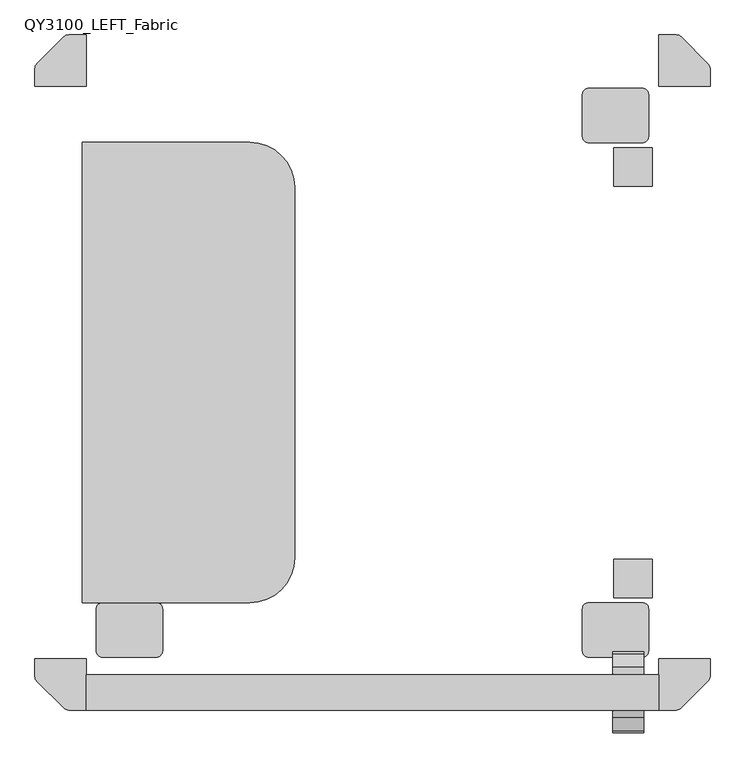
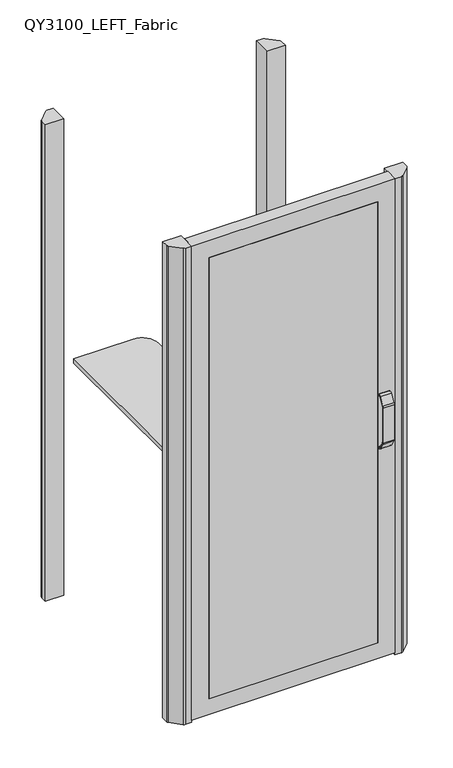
"""IFC4 building model written with IfcOpenShell, lengths in millimetres: furniture geometry, Qyos_100 : QY3100_LEFT_Fabric."""

from ifc_helpers import new_model, si_unit, point, frame, frame_2d, origin, origin_with_axes, place, context, project, spatial, polyline, circle_curve, ellipse_curve, trimmed, segment, composite_curve, outline, extrude, source, transform, mapped, element, save
from ifc_brep_helpers import plane_surface, cylinder_surface, revolved_surface, advanced_brep


def qy3100_left_fabric_19f7d84a(model_context):
    return source(origin(), model_context, "Body", "SolidModel", [
        extrude(outline(composite_curve([segment(polyline([(-451.0, 358.0), (-191.0, 358.0)]), True, "CONTINUOUS"), segment(trimmed(circle_curve(frame_2d((-191.0, 288.0)), 70.0), [point((-191.0, 358.0))], [point((-121.0, 288.0))], False, "CARTESIAN"), True, "CONTINUOUS"), segment(polyline([(-121.0, 288.0), (-121.0, -288.0)]), True, "CONTINUOUS"), segment(trimmed(circle_curve(frame_2d((-191.0, -288.0)), 70.0), [point((-121.0, -288.0))], [point((-191.0, -358.0))], False, "CARTESIAN"), True, "CONTINUOUS"), segment(polyline([(-191.0, -358.0), (-451.0, -358.0), (-451.0, 358.0)]), True, "CONTINUOUS")], self_intersect=False)), frame((0.0, 0.0, 1128.0), z_axis=(0.0, 0.0, 1.0), x_axis=(1.0, 0.0, 0.0)), (0.0, 0.0, 1.0), 19.0),
        advanced_brep(
        [(374.085107, -525.6314016, 980.9779398), (374.085107, -537.1968679, 985.7672556), (374.085107, -557.5610872, 1017.1254034), (374.085107, -560.5, 1025.2), (374.085107, -560.5, 1186.1919919), (374.085107, -557.7819627, 1194.5572505), (374.085107, -537.162848, 1226.3079029), (374.085107, -525.6314016, 1230.9669096), (374.085107, -525.6314016, 1224.0702851), (374.085107, -536.4262787, 1221.4167571), (374.085107, -553.2020658, 1196.5456299), (374.085107, -557.6320377, 1173.7554001), (374.085107, -557.6320377, 1028.7554001), (374.085107, -555.0438473, 1019.0961419), (374.085107, -537.9469969, 991.7354618), (374.085107, -525.6314016, 985.9647191), (422.0329647, -525.6314016, 1230.9669096), (422.0329647, -537.162848, 1226.3079029), (422.0329647, -557.7819627, 1194.5572505), (422.0329647, -560.5, 1186.1919919), (422.0329647, -560.5, 1025.2), (422.0329647, -557.5610872, 1017.1254034), (422.0329647, -537.1968679, 985.7672556), (422.0329647, -525.6314016, 980.9779398), (419.3636893, -525.6314016, 985.9647191), (419.3636893, -525.6314016, 1224.0702851), (419.3636893, -537.9469969, 991.7354618), (419.3636893, -555.0438473, 1019.0961419), (419.3636893, -557.6320377, 1028.7554001), (419.3636893, -557.6320377, 1173.7554001), (419.3636893, -553.2020658, 1196.5456299), (419.3636893, -536.4262787, 1221.4167571)],
        [
            (0, 1, circle_curve(frame((374.085107, -527.6091735, 992.560998), z_axis=(-1.0, 0.0, 0.0), x_axis=(0.0, -1.0, 0.0)), 11.7506945)),
            (1, 2, circle_curve(frame((374.085107, -160.5394908, 1252.6628295), z_axis=(-1.0, 0.0, 0.0), x_axis=(0.0, -1.0, 0.0)), 461.6319174)),
            (2, 3, circle_curve(frame((374.085107, -513.525418, 1037.7252129), z_axis=(-1.0, 0.0, 0.0), x_axis=(0.0, -1.0, 0.0)), 48.615762)),
            (3, 4),
            (4, 5, circle_curve(frame((374.085107, -541.7589098, 1184.7268438), z_axis=(-1.0, 0.0, 0.0), x_axis=(0.0, -1.0, 0.0)), 18.7982744)),
            (5, 6, circle_curve(frame((374.085107, 71.0762231, 808.7424006), z_axis=(-1.0, 0.0, 0.0), x_axis=(0.0, -1.0, 0.0)), 737.777552)),
            (6, 7, circle_curve(frame((374.085107, -527.4087289, 1218.7657801), z_axis=(-1.0, 0.0, 0.0), x_axis=(0.0, -1.0, 0.0)), 12.3299009)),
            (7, 8),
            (8, 9, circle_curve(frame((374.085107, -525.6314016, 1200.7860796), z_axis=(1.0, 0.0, 0.0), x_axis=(0.0, -1.0, 0.0)), 23.2842055)),
            (9, 10, circle_curve(frame((374.085107, -812.3576761, 1389.4415655), z_axis=(-1.0, 0.0, 0.0), x_axis=(0.0, -1.0, 0.0)), 323.0641922)),
            (10, 11, circle_curve(frame((374.085107, -496.7942676, 1173.7554001), z_axis=(1.0, 0.0, 0.0), x_axis=(0.0, -1.0, 0.0)), 60.8377701)),
            (11, 12),
            (12, 13, circle_curve(frame((374.085107, -540.0644692, 1028.286235), z_axis=(1.0, 0.0, 0.0), x_axis=(0.0, -1.0, 0.0)), 17.5738323)),
            (13, 14, circle_curve(frame((374.085107, 1120.4570487, 2047.0433119), z_axis=(1.0, 0.0, 0.0), x_axis=(0.0, -1.0, 0.0)), 1965.7005461)),
            (14, 15, circle_curve(frame((374.085107, -525.4805644, 1002.3136249), z_axis=(1.0, 0.0, 0.0), x_axis=(0.0, -1.0, 0.0)), 16.3496016)),
            (15, 0),
            (16, 17, circle_curve(frame((422.0329647, -527.4087289, 1218.7657801), z_axis=(1.0, 0.0, 0.0), x_axis=(0.0, -1.0, 0.0)), 12.3299009)),
            (17, 18, circle_curve(frame((422.0329647, 71.0762231, 808.7424006), z_axis=(1.0, 0.0, 0.0), x_axis=(0.0, -1.0, 0.0)), 737.777552)),
            (18, 19, circle_curve(frame((422.0329647, -541.7589098, 1184.7268438), z_axis=(1.0, 0.0, 0.0), x_axis=(0.0, -1.0, 0.0)), 18.7982744)),
            (19, 20),
            (20, 21, circle_curve(frame((422.0329647, -513.525418, 1037.7252129), z_axis=(1.0, 0.0, 0.0), x_axis=(0.0, -1.0, 0.0)), 48.615762)),
            (21, 22, circle_curve(frame((422.0329647, -160.5394908, 1252.6628295), z_axis=(1.0, 0.0, 0.0), x_axis=(0.0, -1.0, 0.0)), 461.6319174)),
            (22, 23, circle_curve(frame((422.0329647, -527.6091735, 992.560998), z_axis=(1.0, 0.0, 0.0), x_axis=(0.0, -1.0, 0.0)), 11.7506945)),
            (23, 16),
            (23, 0),
            (15, 24),
            (24, 25),
            (25, 8),
            (7, 16),
            (22, 1),
            (21, 2),
            (20, 3),
            (19, 4),
            (18, 5),
            (17, 6),
            (26, 27, circle_curve(frame((419.3636893, 1120.4570487, 2047.0433119), z_axis=(-1.0, 0.0, 0.0), x_axis=(0.0, -1.0, 0.0)), 1965.7005461)),
            (27, 28, circle_curve(frame((419.3636893, -540.0644692, 1028.286235), z_axis=(-1.0, 0.0, 0.0), x_axis=(0.0, -1.0, 0.0)), 17.5738323)),
            (28, 29),
            (29, 30, circle_curve(frame((419.3636893, -496.7942676, 1173.7554001), z_axis=(-1.0, 0.0, 0.0), x_axis=(0.0, -1.0, 0.0)), 60.8377701)),
            (30, 31, circle_curve(frame((419.3636893, -812.3576761, 1389.4415655), z_axis=(1.0, 0.0, 0.0), x_axis=(0.0, -1.0, 0.0)), 323.0641922)),
            (31, 25, circle_curve(frame((419.3636893, -525.6314016, 1200.7860796), z_axis=(-1.0, 0.0, 0.0), x_axis=(0.0, -1.0, 0.0)), 23.2842055)),
            (24, 26, circle_curve(frame((419.3636893, -525.4805644, 1002.3136249), z_axis=(-1.0, 0.0, 0.0), x_axis=(0.0, -1.0, 0.0)), 16.3496016)),
            (14, 26),
            (13, 27),
            (12, 28),
            (11, 29),
            (10, 30),
            (9, 31),
        ],
        [
            plane_surface(frame((374.085107, -525.6314016, 980.9779398), z_axis=(-1.0, 0.0, 0.0), x_axis=(0.0, 0.0, -1.0))),
            plane_surface(frame((422.0329647, -525.6314016, 980.9779398), z_axis=(1.0, 0.0, 0.0), x_axis=(0.0, 0.0, 1.0))),
            plane_surface(frame((374.085107, -525.6314016, 1230.9669096), z_axis=(0.0, 1.0, 0.0), x_axis=(1.0, 0.0, 0.0))),
            cylinder_surface(frame((422.0329647, -527.6091735, 992.560998), z_axis=(-1.0, 0.0, 0.0), x_axis=(0.0, -1.0, 0.0)), 11.7506945),
            cylinder_surface(frame((422.0329647, -160.5394908, 1252.6628295), z_axis=(-1.0, 0.0, 0.0), x_axis=(0.0, -1.0, 0.0)), 461.6319174),
            cylinder_surface(frame((422.0329647, -513.525418, 1037.7252129), z_axis=(-1.0, 0.0, 0.0), x_axis=(0.0, -1.0, 0.0)), 48.615762),
            plane_surface(frame((374.085107, -560.5, 1025.2), z_axis=(0.0, -1.0, 0.0), x_axis=(1.0, 0.0, 0.0))),
            cylinder_surface(frame((422.0329647, -541.7589098, 1184.7268438), z_axis=(-1.0, 0.0, 0.0), x_axis=(0.0, -1.0, 0.0)), 18.7982744),
            cylinder_surface(frame((422.0329647, 71.0762231, 808.7424006), z_axis=(-1.0, 0.0, 0.0), x_axis=(0.0, -1.0, 0.0)), 737.777552),
            cylinder_surface(frame((422.0329647, -527.4087289, 1218.7657801), z_axis=(-1.0, 0.0, 0.0), x_axis=(0.0, -1.0, 0.0)), 12.3299009),
            plane_surface(frame((419.3636893, -511.7185794, 1224.0702851), z_axis=(-1.0, 0.0, 0.0), x_axis=(0.0, 0.0, 1.0))),
            revolved_surface(polyline([(374.085107, -541.8301660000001, 1002.3136249), (419.3636893, -541.8301660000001, 1002.3136249)]), (419.3636893, -525.4805644, 1002.3136249), (-1.0, 0.0, 0.0)),
            revolved_surface(polyline([(374.085107, -845.2434974, 2047.0433119), (419.3636893, -845.2434974, 2047.0433119)]), (419.3636893, 1120.4570487, 2047.0433119), (-1.0, 0.0, 0.0)),
            revolved_surface(polyline([(374.085107, -557.6383015, 1028.286235), (419.3636893, -557.6383015, 1028.286235)]), (419.3636893, -540.0644692, 1028.286235), (-1.0, 0.0, 0.0)),
            plane_surface(frame((366.879078, -557.6320377, 1028.7554001), z_axis=(0.0, 1.0, 0.0), x_axis=(1.0, 0.0, 0.0))),
            revolved_surface(polyline([(374.085107, -557.6320377, 1173.7554001), (419.3636893, -557.6320377, 1173.7554001)]), (419.3636893, -496.7942676, 1173.7554001), (-1.0, 0.0, 0.0)),
            cylinder_surface(frame((419.3636893, -812.3576761, 1389.4415655), z_axis=(1.0, 0.0, 0.0), x_axis=(0.0, -1.0, 0.0)), 323.0641922),
            revolved_surface(polyline([(374.085107, -548.9156071, 1200.7860796), (419.3636893, -548.9156071, 1200.7860796)]), (419.3636893, -525.6314016, 1200.7860796), (-1.0, 0.0, 0.0)),
        ],
        [
            (0, [[1, 2, 3, 4, 5, 6, 7, 8, 9, 10, 11, 12, 13, 14, 15, 16]]),
            (1, [[17, 18, 19, 20, 21, 22, 23, 24]]),
            (2, [[-24, 25, -16, 26, 27, 28, -8, 29]]),
            (3, [[-1, -25, -23, 30]]),
            (4, [[-2, -30, -22, 31]]),
            (5, [[-3, -31, -21, 32]]),
            (6, [[-4, -32, -20, 33]]),
            (7, [[-5, -33, -19, 34]]),
            (8, [[-6, -34, -18, 35]]),
            (9, [[-7, -35, -17, -29]]),
            (10, [[36, 37, 38, 39, 40, 41, -27, 42]]),
            (11, [[-42, -26, -15, 43]]),
            (12, [[-36, -43, -14, 44]]),
            (13, [[-37, -44, -13, 45]]),
            (14, [[-38, -45, -12, 46]]),
            (15, [[-39, -46, -11, 47]]),
            (16, [[-40, -47, -10, 48]]),
            (17, [[-41, -48, -9, -28]]),
        ],
    ),
        extrude(outline(composite_curve([segment(trimmed(circle_curve(frame_2d((1227.9666334, 377.0853832)), 3.0002762), [point((1230.9669096, 377.0853832))], [point((1227.9666334, 374.085107))], False, "CARTESIAN"), True, "CONTINUOUS"), segment(polyline([(1227.9666334, 374.085107), (1225.9934427, 374.085107)]), True, "CONTINUOUS"), segment(trimmed(circle_curve(frame_2d((1225.9934427, 376.0082646)), 1.9231576), [point((1225.9934427, 374.085107))], [point((1224.0702851, 376.0082646))], False, "CARTESIAN"), True, "CONTINUOUS"), segment(trimmed(circle_curve(frame_2d((1209.9037954, 375.5135599)), 14.1751248), [point((1224.0702851, 376.0082646))], [point((1212.36528, 389.4733327))], True, "CARTESIAN"), True, "CONTINUOUS"), segment(trimmed(circle_curve(frame_2d((1213.8757406, 398.0395804)), 8.6983958), [point((1212.36528, 389.4733327))], [point((1205.1773447, 398.0395804))], False, "CARTESIAN"), True, "CONTINUOUS"), segment(polyline([(1205.1773447, 398.0395804), (1205.1773447, 406.5714853)]), True, "CONTINUOUS"), segment(trimmed(circle_curve(frame_2d((1193.2103851, 406.5714853)), 11.9669596), [point((1205.1773447, 406.5714853))], [point((1193.2103851, 418.5384449))], True, "CARTESIAN"), True, "CONTINUOUS"), segment(polyline([(1193.2103851, 418.5384449), (1018.7344643, 418.5384449)]), True, "CONTINUOUS"), segment(trimmed(circle_curve(frame_2d((1018.7344643, 406.9375589)), 11.600886), [point((1018.7344643, 418.5384449))], [point((1007.3098217, 404.9230861))], True, "CARTESIAN"), True, "CONTINUOUS"), segment(trimmed(circle_curve(frame_2d((984.8527266, 400.9632944)), 22.803532), [point((1007.3098217, 404.9230861))], [point((1007.3803501, 397.4267349))], False, "CARTESIAN"), True, "CONTINUOUS"), segment(trimmed(circle_curve(frame_2d((999.3564071, 397.3512428)), 8.0242982), [point((1007.3803501, 397.4267349))], [point((999.6402401, 389.331966))], False, "CARTESIAN"), True, "CONTINUOUS"), segment(trimmed(circle_curve(frame_2d((1002.686839, 375.1402608)), 14.5150358), [point((999.6402401, 389.331966))], [point((988.1941223, 375.9448887))], True, "CARTESIAN"), True, "CONTINUOUS"), segment(trimmed(circle_curve(frame_2d((985.9777208, 376.3357001)), 2.2505931), [point((988.1941223, 375.9448887))], [point((985.9777208, 374.085107))], False, "CARTESIAN"), True, "CONTINUOUS"), segment(polyline([(985.9777208, 374.085107), (983.9760215, 374.085107)]), True, "CONTINUOUS"), segment(trimmed(circle_curve(frame_2d((983.9760215, 377.0831887)), 2.9980817), [point((983.9760215, 374.085107))], [point((980.9779398, 377.0831887))], False, "CARTESIAN"), True, "CONTINUOUS"), segment(polyline([(980.9779398, 377.0831887), (980.9779398, 417.0486701)]), True, "CONTINUOUS"), segment(trimmed(circle_curve(frame_2d((985.9710874, 417.0486701)), 4.9931477), [point((980.9779398, 417.0486701))], [point((985.9710874, 422.0418178))], False, "CARTESIAN"), True, "CONTINUOUS"), segment(polyline([(985.9710874, 422.0418178), (1225.973762, 422.0418178)]), True, "CONTINUOUS"), segment(trimmed(circle_curve(frame_2d((1225.973762, 417.0486701)), 4.9931477), [point((1225.973762, 422.0418178))], [point((1230.9669096, 417.0486701))], False, "CARTESIAN"), True, "CONTINUOUS"), segment(polyline([(1230.9669096, 417.0486701), (1230.9669096, 377.0853832)]), True, "CONTINUOUS")], self_intersect=False)), frame((0.0, -525.6314016, 0.0), z_axis=(0.0, 1.0, 0.0), x_axis=(0.0, 0.0, 1.0)), (0.0, 0.0, 1.0), 0.6314016),
        advanced_brep(
        [(374.085107, -469.3642803, 980.9779398), (374.085107, -469.3642803, 985.9647191), (374.085107, -457.048685, 991.7354618), (374.085107, -439.9518346, 1019.0961419), (374.085107, -437.3636441, 1028.7554001), (374.085107, -437.3636441, 1173.7554001), (374.085107, -441.7936161, 1196.5456299), (374.085107, -458.5694032, 1221.4167571), (374.085107, -469.3642803, 1224.0702851), (374.085107, -469.3642803, 1230.9669096), (374.085107, -457.8328339, 1226.3079029), (374.085107, -437.2137192, 1194.5572505), (374.085107, -434.4956819, 1186.1919919), (374.085107, -434.4956819, 1025.2), (374.085107, -437.4345947, 1017.1254034), (374.085107, -457.798814, 985.7672556), (422.0329647, -469.3642803, 1230.9669096), (422.0329647, -469.3642803, 980.9779398), (422.0329647, -457.798814, 985.7672556), (422.0329647, -437.4345947, 1017.1254034), (422.0329647, -434.4956819, 1025.2), (422.0329647, -434.4956819, 1186.1919919), (422.0329647, -437.2137192, 1194.5572505), (422.0329647, -457.8328339, 1226.3079029), (419.3636893, -469.3642803, 1224.0702851), (419.3636893, -469.3642803, 985.9647191), (419.3636893, -457.048685, 991.7354618), (419.3636893, -458.5694032, 1221.4167571), (419.3636893, -441.7936161, 1196.5456299), (419.3636893, -437.3636441, 1173.7554001), (419.3636893, -437.3636441, 1028.7554001), (419.3636893, -439.9518346, 1019.0961419)],
        [
            (0, 1),
            (1, 2, circle_curve(frame((374.085107, -469.5151175, 1002.3136249), z_axis=(1.0, 0.0, 0.0), x_axis=(0.0, 1.0, 0.0)), 16.3496016)),
            (2, 3, circle_curve(frame((374.085107, -2115.4527306, 2047.0433119), z_axis=(1.0, 0.0, 0.0), x_axis=(0.0, 1.0, 0.0)), 1965.7005461)),
            (3, 4, circle_curve(frame((374.085107, -454.9312127, 1028.286235), z_axis=(1.0, 0.0, 0.0), x_axis=(0.0, 1.0, 0.0)), 17.5738323)),
            (4, 5),
            (5, 6, circle_curve(frame((374.085107, -498.2014142, 1173.7554001), z_axis=(1.0, 0.0, 0.0), x_axis=(0.0, 1.0, 0.0)), 60.8377701)),
            (6, 7, circle_curve(frame((374.085107, -182.6380058, 1389.4415655), z_axis=(-1.0, 0.0, 0.0), x_axis=(0.0, 1.0, 0.0)), 323.0641922)),
            (7, 8, circle_curve(frame((374.085107, -469.3642803, 1200.7860796), z_axis=(1.0, 0.0, 0.0), x_axis=(0.0, 1.0, 0.0)), 23.2842055)),
            (8, 9),
            (9, 10, circle_curve(frame((374.085107, -467.586953, 1218.7657801), z_axis=(-1.0, 0.0, 0.0), x_axis=(0.0, 1.0, 0.0)), 12.3299009)),
            (10, 11, circle_curve(frame((374.085107, -1066.071905, 808.7424006), z_axis=(-1.0, 0.0, 0.0), x_axis=(0.0, 1.0, 0.0)), 737.777552)),
            (11, 12, circle_curve(frame((374.085107, -453.236772, 1184.7268438), z_axis=(-1.0, 0.0, 0.0), x_axis=(0.0, 1.0, 0.0)), 18.7982744)),
            (12, 13),
            (13, 14, circle_curve(frame((374.085107, -481.4702639, 1037.7252129), z_axis=(-1.0, 0.0, 0.0), x_axis=(0.0, 1.0, 0.0)), 48.615762)),
            (14, 15, circle_curve(frame((374.085107, -834.4561911, 1252.6628295), z_axis=(-1.0, 0.0, 0.0), x_axis=(0.0, 1.0, 0.0)), 461.6319174)),
            (15, 0, circle_curve(frame((374.085107, -467.3865084, 992.560998), z_axis=(-1.0, 0.0, 0.0), x_axis=(0.0, 1.0, 0.0)), 11.7506945)),
            (16, 17),
            (17, 18, circle_curve(frame((422.0329647, -467.3865084, 992.560998), z_axis=(1.0, 0.0, 0.0), x_axis=(0.0, 1.0, 0.0)), 11.7506945)),
            (18, 19, circle_curve(frame((422.0329647, -834.4561911, 1252.6628295), z_axis=(1.0, 0.0, 0.0), x_axis=(0.0, 1.0, 0.0)), 461.6319174)),
            (19, 20, circle_curve(frame((422.0329647, -481.4702639, 1037.7252129), z_axis=(1.0, 0.0, 0.0), x_axis=(0.0, 1.0, 0.0)), 48.615762)),
            (20, 21),
            (21, 22, circle_curve(frame((422.0329647, -453.236772, 1184.7268438), z_axis=(1.0, 0.0, 0.0), x_axis=(0.0, 1.0, 0.0)), 18.7982744)),
            (22, 23, circle_curve(frame((422.0329647, -1066.071905, 808.7424006), z_axis=(1.0, 0.0, 0.0), x_axis=(0.0, 1.0, 0.0)), 737.777552)),
            (23, 16, circle_curve(frame((422.0329647, -467.586953, 1218.7657801), z_axis=(1.0, 0.0, 0.0), x_axis=(0.0, 1.0, 0.0)), 12.3299009)),
            (16, 9),
            (8, 24),
            (24, 25),
            (25, 1),
            (0, 17),
            (15, 18),
            (14, 19),
            (13, 20),
            (12, 21),
            (11, 22),
            (10, 23),
            (26, 25, circle_curve(frame((419.3636893, -469.5151175, 1002.3136249), z_axis=(-1.0, 0.0, 0.0), x_axis=(0.0, 1.0, 0.0)), 16.3496016)),
            (24, 27, circle_curve(frame((419.3636893, -469.3642803, 1200.7860796), z_axis=(-1.0, 0.0, 0.0), x_axis=(0.0, 1.0, 0.0)), 23.2842055)),
            (27, 28, circle_curve(frame((419.3636893, -182.6380058, 1389.4415655), z_axis=(1.0, 0.0, 0.0), x_axis=(0.0, 1.0, 0.0)), 323.0641922)),
            (28, 29, circle_curve(frame((419.3636893, -498.2014142, 1173.7554001), z_axis=(-1.0, 0.0, 0.0), x_axis=(0.0, 1.0, 0.0)), 60.8377701)),
            (29, 30),
            (30, 31, circle_curve(frame((419.3636893, -454.9312127, 1028.286235), z_axis=(-1.0, 0.0, 0.0), x_axis=(0.0, 1.0, 0.0)), 17.5738323)),
            (31, 26, circle_curve(frame((419.3636893, -2115.4527306, 2047.0433119), z_axis=(-1.0, 0.0, 0.0), x_axis=(0.0, 1.0, 0.0)), 1965.7005461)),
            (26, 2),
            (31, 3),
            (30, 4),
            (29, 5),
            (28, 6),
            (27, 7),
        ],
        [
            plane_surface(frame((374.085107, -469.3642803, 980.9779398), z_axis=(-1.0, 0.0, 0.0), x_axis=(0.0, 0.0, -1.0))),
            plane_surface(frame((422.0329647, -469.3642803, 980.9779398), z_axis=(1.0, 0.0, 0.0), x_axis=(0.0, 0.0, 1.0))),
            plane_surface(frame((374.085107, -469.3642803, 1230.9669096), z_axis=(0.0, -1.0, 0.0), x_axis=(1.0, 0.0, 0.0))),
            cylinder_surface(frame((422.0329647, -467.3865084, 992.560998), z_axis=(-1.0, 0.0, 0.0), x_axis=(0.0, 1.0, 0.0)), 11.7506945),
            cylinder_surface(frame((422.0329647, -834.4561911, 1252.6628295), z_axis=(-1.0, 0.0, 0.0), x_axis=(0.0, 1.0, 0.0)), 461.6319174),
            cylinder_surface(frame((422.0329647, -481.4702639, 1037.7252129), z_axis=(-1.0, 0.0, 0.0), x_axis=(0.0, 1.0, 0.0)), 48.615762),
            plane_surface(frame((374.085107, -434.4956819, 1025.2), z_axis=(0.0, 1.0, 0.0), x_axis=(1.0, 0.0, 0.0))),
            cylinder_surface(frame((422.0329647, -453.236772, 1184.7268438), z_axis=(-1.0, 0.0, 0.0), x_axis=(0.0, 1.0, 0.0)), 18.7982744),
            cylinder_surface(frame((422.0329647, -1066.071905, 808.7424006), z_axis=(-1.0, 0.0, 0.0), x_axis=(0.0, 1.0, 0.0)), 737.777552),
            cylinder_surface(frame((422.0329647, -467.586953, 1218.7657801), z_axis=(-1.0, 0.0, 0.0), x_axis=(0.0, 1.0, 0.0)), 12.3299009),
            plane_surface(frame((419.3636893, -483.2771024, 1224.0702851), z_axis=(-1.0, 0.0, 0.0), x_axis=(0.0, 0.0, 1.0))),
            revolved_surface(polyline([(374.085107, -453.16551589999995, 1002.3136249), (419.3636893, -453.16551589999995, 1002.3136249)]), (419.3636893, -469.5151175, 1002.3136249), (-1.0, 0.0, 0.0)),
            revolved_surface(polyline([(374.085107, -149.75218449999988, 2047.0433119), (419.3636893, -149.75218449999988, 2047.0433119)]), (419.3636893, -2115.4527306, 2047.0433119), (-1.0, 0.0, 0.0)),
            revolved_surface(polyline([(374.085107, -437.3573804, 1028.286235), (419.3636893, -437.3573804, 1028.286235)]), (419.3636893, -454.9312127, 1028.286235), (-1.0, 0.0, 0.0)),
            plane_surface(frame((366.879078, -437.3636441, 1028.7554001), z_axis=(0.0, -1.0, 0.0), x_axis=(1.0, 0.0, 0.0))),
            revolved_surface(polyline([(374.085107, -437.3636441, 1173.7554001), (419.3636893, -437.3636441, 1173.7554001)]), (419.3636893, -498.2014142, 1173.7554001), (-1.0, 0.0, 0.0)),
            cylinder_surface(frame((419.3636893, -182.6380058, 1389.4415655), z_axis=(1.0, 0.0, 0.0), x_axis=(0.0, 1.0, 0.0)), 323.0641922),
            revolved_surface(polyline([(374.085107, -446.08007480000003, 1200.7860796), (419.3636893, -446.08007480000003, 1200.7860796)]), (419.3636893, -469.3642803, 1200.7860796), (-1.0, 0.0, 0.0)),
        ],
        [
            (0, [[1, 2, 3, 4, 5, 6, 7, 8, 9, 10, 11, 12, 13, 14, 15, 16]]),
            (1, [[17, 18, 19, 20, 21, 22, 23, 24]]),
            (2, [[25, -9, 26, 27, 28, -1, 29, -17]]),
            (3, [[30, -18, -29, -16]]),
            (4, [[31, -19, -30, -15]]),
            (5, [[32, -20, -31, -14]]),
            (6, [[33, -21, -32, -13]]),
            (7, [[34, -22, -33, -12]]),
            (8, [[35, -23, -34, -11]]),
            (9, [[-25, -24, -35, -10]]),
            (10, [[36, -27, 37, 38, 39, 40, 41, 42]]),
            (11, [[43, -2, -28, -36]]),
            (12, [[44, -3, -43, -42]]),
            (13, [[45, -4, -44, -41]]),
            (14, [[46, -5, -45, -40]]),
            (15, [[47, -6, -46, -39]]),
            (16, [[48, -7, -47, -38]]),
            (17, [[-26, -8, -48, -37]]),
        ],
    ),
        extrude(outline(composite_curve([segment(trimmed(circle_curve(frame_2d((1227.9666334, 377.0853832)), 3.0002762), [point((1230.9669096, 377.0853832))], [point((1227.9666334, 374.085107))], False, "CARTESIAN"), True, "CONTINUOUS"), segment(polyline([(1227.9666334, 374.085107), (1225.9934427, 374.085107)]), True, "CONTINUOUS"), segment(trimmed(circle_curve(frame_2d((1225.9934427, 376.0082646)), 1.9231576), [point((1225.9934427, 374.085107))], [point((1224.0702851, 376.0082646))], False, "CARTESIAN"), True, "CONTINUOUS"), segment(trimmed(circle_curve(frame_2d((1209.9037954, 375.5135599)), 14.1751248), [point((1224.0702851, 376.0082646))], [point((1212.36528, 389.4733327))], True, "CARTESIAN"), True, "CONTINUOUS"), segment(trimmed(circle_curve(frame_2d((1213.8757406, 398.0395804)), 8.6983958), [point((1212.36528, 389.4733327))], [point((1205.1773447, 398.0395804))], False, "CARTESIAN"), True, "CONTINUOUS"), segment(polyline([(1205.1773447, 398.0395804), (1205.1773447, 406.5714853)]), True, "CONTINUOUS"), segment(trimmed(circle_curve(frame_2d((1193.2103851, 406.5714853)), 11.9669596), [point((1205.1773447, 406.5714853))], [point((1193.2103851, 418.5384449))], True, "CARTESIAN"), True, "CONTINUOUS"), segment(polyline([(1193.2103851, 418.5384449), (1018.7344643, 418.5384449)]), True, "CONTINUOUS"), segment(trimmed(circle_curve(frame_2d((1018.7344643, 406.9375589)), 11.600886), [point((1018.7344643, 418.5384449))], [point((1007.3098217, 404.9230861))], True, "CARTESIAN"), True, "CONTINUOUS"), segment(trimmed(circle_curve(frame_2d((984.8527266, 400.9632944)), 22.803532), [point((1007.3098217, 404.9230861))], [point((1007.3803501, 397.4267349))], False, "CARTESIAN"), True, "CONTINUOUS"), segment(trimmed(circle_curve(frame_2d((999.3564071, 397.3512428)), 8.0242982), [point((1007.3803501, 397.4267349))], [point((999.6402401, 389.331966))], False, "CARTESIAN"), True, "CONTINUOUS"), segment(trimmed(circle_curve(frame_2d((1002.686839, 375.1402608)), 14.5150358), [point((999.6402401, 389.331966))], [point((988.1941223, 375.9448887))], True, "CARTESIAN"), True, "CONTINUOUS"), segment(trimmed(circle_curve(frame_2d((985.9777208, 376.3357001)), 2.2505931), [point((988.1941223, 375.9448887))], [point((985.9777208, 374.085107))], False, "CARTESIAN"), True, "CONTINUOUS"), segment(polyline([(985.9777208, 374.085107), (983.9760215, 374.085107)]), True, "CONTINUOUS"), segment(trimmed(circle_curve(frame_2d((983.9760215, 377.0831887)), 2.9980817), [point((983.9760215, 374.085107))], [point((980.9779398, 377.0831887))], False, "CARTESIAN"), True, "CONTINUOUS"), segment(polyline([(980.9779398, 377.0831887), (980.9779398, 417.0486701)]), True, "CONTINUOUS"), segment(trimmed(circle_curve(frame_2d((985.9710874, 417.0486701)), 4.9931477), [point((980.9779398, 417.0486701))], [point((985.9710874, 422.0418178))], False, "CARTESIAN"), True, "CONTINUOUS"), segment(polyline([(985.9710874, 422.0418178), (1225.973762, 422.0418178)]), True, "CONTINUOUS"), segment(trimmed(circle_curve(frame_2d((1225.973762, 417.0486701)), 4.9931477), [point((1225.973762, 422.0418178))], [point((1230.9669096, 417.0486701))], False, "CARTESIAN"), True, "CONTINUOUS"), segment(polyline([(1230.9669096, 417.0486701), (1230.9669096, 377.0853832)]), True, "CONTINUOUS")], self_intersect=False)), frame((0.0, -469.9956819, 0.0), z_axis=(0.0, 1.0, 0.0), x_axis=(0.0, 0.0, 1.0)), (0.0, 0.0, 1.0), 0.6314016),
        extrude(outline(polyline([(-369.5, -525.0), (-369.5, -520.0), (369.5, -520.0), (369.5, -525.0), (-369.5, -525.0)])), frame((0.0, 0.0, 82.0), z_axis=(0.0, 0.0, 1.0), x_axis=(1.0, 0.0, 0.0)), (0.0, 0.0, 1.0), 2040.1),
        extrude(outline(polyline([(10.0, 445.0), (2202.1, 445.0), (2202.1, -445.0), (10.0, -445.0), (10.0, 445.0)]), holes=[polyline([(82.0, -369.5), (2122.1, -369.5), (2122.1, 369.5), (82.0, 369.5), (82.0, -369.5)])]), frame((0.0, -525.0, 0.0), z_axis=(0.0, 1.0, 0.0), x_axis=(0.0, 0.0, 1.0)), (0.0, 0.0, 1.0), 55.0043181),
        extrude(outline(composite_curve([segment(polyline([(-445.0, 445.0), (-525.0, 445.0), (-525.0, 472.5536246)]), True, "CONTINUOUS"), segment(trimmed(circle_curve(frame_2d((-513.0024364, 472.3118252)), 12.0), [point((-525.0, 472.5536246))], [point((-521.7960176, 480.4771745))], False, "CARTESIAN"), True, "CONTINUOUS"), segment(trimmed(circle_curve(frame_2d((56.5696169, -56.568803)), 789.2560985), [point((-521.7960176, 480.4771745))], [point((-480.4763607, 521.7968315))], False, "CARTESIAN"), True, "CONTINUOUS"), segment(trimmed(circle_curve(frame_2d((-472.3110114, 513.0032502)), 12.0), [point((-480.4763607, 521.7968315))], [point((-472.5902872, 525.0))], False, "CARTESIAN"), True, "CONTINUOUS"), segment(polyline([(-472.5902872, 525.0), (-445.0, 525.0), (-445.0, 445.0)]), True, "CONTINUOUS")], self_intersect=False)), origin_with_axes(), (0.0, 0.0, 1.0), 2202.1),
        extrude(outline(composite_curve([segment(polyline([(445.0, 445.0), (445.0, 525.0), (472.5536246, 525.0)]), True, "CONTINUOUS"), segment(trimmed(circle_curve(frame_2d((472.3118252, 513.0024364)), 12.0), [point((472.5536246, 525.0))], [point((480.4771745, 521.7960176))], False, "CARTESIAN"), True, "CONTINUOUS"), segment(trimmed(circle_curve(frame_2d((-56.568803, -56.5696169)), 789.2560985), [point((480.4771745, 521.7960176))], [point((521.7968315, 480.4763607))], False, "CARTESIAN"), True, "CONTINUOUS"), segment(trimmed(circle_curve(frame_2d((513.0032502, 472.3110114)), 12.0), [point((521.7968315, 480.4763607))], [point((525.0, 472.5902872))], False, "CARTESIAN"), True, "CONTINUOUS"), segment(polyline([(525.0, 472.5902872), (525.0, 445.0), (445.0, 445.0)]), True, "CONTINUOUS")], self_intersect=False)), origin_with_axes(), (0.0, 0.0, 1.0), 2202.1),
        extrude(outline(composite_curve([segment(polyline([(445.0, -445.0), (525.0, -445.0), (525.0, -472.5536246)]), True, "CONTINUOUS"), segment(trimmed(circle_curve(frame_2d((513.0024364, -472.3118252)), 12.0), [point((525.0, -472.5536246))], [point((521.7960176, -480.4771745))], False, "CARTESIAN"), True, "CONTINUOUS"), segment(trimmed(circle_curve(frame_2d((-56.5696169, 56.568803)), 789.2560985), [point((521.7960176, -480.4771745))], [point((480.4763607, -521.7968315))], False, "CARTESIAN"), True, "CONTINUOUS"), segment(trimmed(circle_curve(frame_2d((472.3110114, -513.0032502)), 12.0), [point((480.4763607, -521.7968315))], [point((472.5902872, -525.0))], False, "CARTESIAN"), True, "CONTINUOUS"), segment(polyline([(472.5902872, -525.0), (445.0, -525.0), (445.0, -445.0)]), True, "CONTINUOUS")], self_intersect=False)), origin_with_axes(), (0.0, 0.0, 1.0), 2202.1),
        extrude(outline(composite_curve([segment(polyline([(-445.0, -445.0), (-445.0, -525.0), (-472.5536246, -525.0)]), True, "CONTINUOUS"), segment(trimmed(circle_curve(frame_2d((-472.3118252, -513.0024364)), 12.0), [point((-472.5536246, -525.0))], [point((-480.4771745, -521.7960176))], False, "CARTESIAN"), True, "CONTINUOUS"), segment(trimmed(circle_curve(frame_2d((56.568803, 56.5696169)), 789.2560985), [point((-480.4771745, -521.7960176))], [point((-521.7968315, -480.4763607))], False, "CARTESIAN"), True, "CONTINUOUS"), segment(trimmed(circle_curve(frame_2d((-513.0032502, -472.3110114)), 12.0), [point((-521.7968315, -480.4763607))], [point((-525.0, -472.5902872))], False, "CARTESIAN"), True, "CONTINUOUS"), segment(polyline([(-525.0, -472.5902872), (-525.0, -445.0), (-445.0, -445.0)]), True, "CONTINUOUS")], self_intersect=False)), origin_with_axes(), (0.0, 0.0, 1.0), 2202.1),
        extrude(outline(composite_curve([segment(trimmed(circle_curve(frame_2d((-320.0, 17.6301284)), 17.6301284), [point((-302.3698716, 17.6301284))], [point((-337.6301284, 17.6301284))], False, "CARTESIAN"), True, "CONTINUOUS"), segment(trimmed(circle_curve(frame_2d((-320.0, 17.6301284)), 17.6301284), [point((-337.6301284, 17.6301284))], [point((-302.3698716, 17.6301284))], False, "CARTESIAN"), True, "CONTINUOUS")], self_intersect=False)), frame((391.5330052, 0.0, 0.0), z_axis=(1.0, 0.0, 0.0), x_axis=(0.0, 1.0, 0.0)), (0.0, 0.0, 1.0), 26.9339897),
        extrude(outline(composite_curve([segment(trimmed(circle_curve(frame_2d((405.0, -320.0)), 20.0), [point((425.0, -320.0))], [point((385.0, -320.0))], False, "CARTESIAN"), True, "CONTINUOUS"), segment(trimmed(circle_curve(frame_2d((405.0, -320.0)), 20.0), [point((385.0, -320.0))], [point((425.0, -320.0))], False, "CARTESIAN"), True, "CONTINUOUS")], self_intersect=False)), frame((0.0, 0.0, 35.2602568), z_axis=(0.0, 0.0, 1.0), x_axis=(1.0, 0.0, 0.0)), (0.0, 0.0, 1.0), 7.0),
        extrude(outline(polyline([(435.0, -290.0), (435.0, -350.0), (375.0, -350.0), (375.0, -290.0), (435.0, -290.0)])), frame((0.0, 0.0, 42.2602568), z_axis=(0.0, 0.0, 1.0), x_axis=(1.0, 0.0, 0.0)), (0.0, 0.0, 1.0), 4.7397432),
        extrude(outline(composite_curve([segment(trimmed(circle_curve(frame_2d((-320.0, 17.6301284)), 17.6301284), [point((-302.3698716, 17.6301284))], [point((-337.6301284, 17.6301284))], False, "CARTESIAN"), True, "CONTINUOUS"), segment(trimmed(circle_curve(frame_2d((-320.0, 17.6301284)), 17.6301284), [point((-337.6301284, 17.6301284))], [point((-302.3698716, 17.6301284))], False, "CARTESIAN"), True, "CONTINUOUS")], self_intersect=False)), frame((-418.4669948, 0.0, 0.0), z_axis=(1.0, 0.0, 0.0), x_axis=(0.0, 1.0, 0.0)), (0.0, 0.0, 1.0), 26.9339897),
        extrude(outline(composite_curve([segment(trimmed(circle_curve(frame_2d((-405.0, -320.0)), 20.0), [point((-425.0, -320.0))], [point((-385.0, -320.0))], False, "CARTESIAN"), True, "CONTINUOUS"), segment(trimmed(circle_curve(frame_2d((-405.0, -320.0)), 20.0), [point((-385.0, -320.0))], [point((-425.0, -320.0))], False, "CARTESIAN"), True, "CONTINUOUS")], self_intersect=False)), frame((0.0, 0.0, 35.2602568), z_axis=(0.0, 0.0, 1.0), x_axis=(1.0, 0.0, 0.0)), (0.0, 0.0, 1.0), 7.0),
        extrude(outline(polyline([(-435.0, -290.0), (-375.0, -290.0), (-375.0, -350.0), (-435.0, -350.0), (-435.0, -290.0)])), frame((0.0, 0.0, 42.2602568), z_axis=(0.0, 0.0, 1.0), x_axis=(1.0, 0.0, 0.0)), (0.0, 0.0, 1.0), 4.7397432),
        extrude(outline(composite_curve([segment(trimmed(circle_curve(frame_2d((320.0, 17.6301284)), 17.6301284), [point((302.3698716, 17.6301284))], [point((337.6301284, 17.6301284))], False, "CARTESIAN"), True, "CONTINUOUS"), segment(trimmed(circle_curve(frame_2d((320.0, 17.6301284)), 17.6301284), [point((337.6301284, 17.6301284))], [point((302.3698716, 17.6301284))], False, "CARTESIAN"), True, "CONTINUOUS")], self_intersect=False)), frame((391.5330052, 0.0, 0.0), z_axis=(1.0, 0.0, 0.0), x_axis=(0.0, 1.0, 0.0)), (0.0, 0.0, 1.0), 26.9339897),
        extrude(outline(composite_curve([segment(trimmed(circle_curve(frame_2d((405.0, 320.0)), 20.0), [point((425.0, 320.0))], [point((385.0, 320.0))], False, "CARTESIAN"), True, "CONTINUOUS"), segment(trimmed(circle_curve(frame_2d((405.0, 320.0)), 20.0), [point((385.0, 320.0))], [point((425.0, 320.0))], False, "CARTESIAN"), True, "CONTINUOUS")], self_intersect=False)), frame((0.0, 0.0, 35.2602568), z_axis=(0.0, 0.0, 1.0), x_axis=(1.0, 0.0, 0.0)), (0.0, 0.0, 1.0), 7.0),
        extrude(outline(polyline([(435.0, 290.0), (375.0, 290.0), (375.0, 350.0), (435.0, 350.0), (435.0, 290.0)])), frame((0.0, 0.0, 42.2602568), z_axis=(0.0, 0.0, 1.0), x_axis=(1.0, 0.0, 0.0)), (0.0, 0.0, 1.0), 4.7397432),
        advanced_brep(
        [(389.0102872, -400.0, 7.0), (366.9897128, -400.0, 7.0), (378.0, -400.0, 7.0), (390.853369, -400.0, 8.8430818), (365.146631, -400.0, 8.8430818), (393.1395917, -400.0, 37.8922955), (362.8604083, -400.0, 37.8922955), (397.5075531, -400.0, 42.2602568), (358.4924469, -400.0, 42.2602568), (378.0, -400.0, 42.2602568)],
        [
            (0, 1, circle_curve(frame((378.0, -400.0, 7.0), z_axis=(0.0, 0.0, -1.0), x_axis=(-1.0, 0.0, 0.0)), 11.0102872)),
            (1, 2),
            (2, 0),
            (1, 0, circle_curve(frame((378.0, -400.0, 7.0), z_axis=(0.0, 0.0, -1.0), x_axis=(-1.0, 0.0, 0.0)), 11.0102872)),
            (3, 4, circle_curve(frame((378.0, -400.0, 8.8430818), z_axis=(0.0, 0.0, -1.0), x_axis=(-1.0, 0.0, 0.0)), 12.853369)),
            (4, 1, circle_curve(frame((366.9897128, -400.0, 8.8430818), z_axis=(0.0, -1.0, 0.0), x_axis=(-1.0, 0.0, 0.0)), 1.8430818)),
            (0, 3, circle_curve(frame((389.0102872, -400.0, 8.8430818), z_axis=(0.0, -1.0, 0.0), x_axis=(1.0, 0.0, 0.0)), 1.8430818)),
            (4, 3, circle_curve(frame((378.0, -400.0, 8.8430818), z_axis=(0.0, 0.0, -1.0), x_axis=(-1.0, 0.0, 0.0)), 12.853369)),
            (5, 6, circle_curve(frame((378.0, -400.0, 37.8922955), z_axis=(0.0, 0.0, -1.0), x_axis=(-1.0, 0.0, 0.0)), 15.1395917)),
            (6, 4),
            (3, 5),
            (6, 5, circle_curve(frame((378.0, -400.0, 37.8922955), z_axis=(0.0, 0.0, -1.0), x_axis=(-1.0, 0.0, 0.0)), 15.1395917)),
            (7, 8, circle_curve(frame((378.0, -400.0, 42.2602568), z_axis=(0.0, 0.0, -1.0), x_axis=(-1.0, 0.0, 0.0)), 19.5075531)),
            (8, 6, circle_curve(frame((358.4924469, -400.0, 37.8922955), z_axis=(0.0, 1.0, 0.0), x_axis=(-1.0, 0.0, 0.0)), 4.3679613)),
            (5, 7, circle_curve(frame((397.5075531, -400.0, 37.8922955), z_axis=(0.0, 1.0, 0.0), x_axis=(1.0, 0.0, 0.0)), 4.3679613)),
            (8, 7, circle_curve(frame((378.0, -400.0, 42.2602568), z_axis=(0.0, 0.0, -1.0), x_axis=(-1.0, 0.0, 0.0)), 19.5075531)),
            (9, 8),
            (7, 9),
        ],
        [
            plane_surface(frame((378.0, -400.0, 7.0), z_axis=(0.0, 0.0, -1.0), x_axis=(-1.0, 0.0, 0.0))),
            revolved_surface(trimmed(ellipse_curve(frame((366.9897128, -400.0, 8.8430818), z_axis=(0.0, 1.0, 0.0), x_axis=(-1.0, 0.0, 0.0)), 1.8430818, 1.8430818), [point((366.9897128, -400.0, 7.0))], [point((365.146631, -400.0, 8.8430818))], True, "CARTESIAN"), (378.0, -400.0, 1997.4144888), (0.0, 0.0, 1.0)),
            revolved_surface(polyline([(365.146631, -400.0, 8.8430818), (362.8604083, -400.0, 37.8922955)]), (378.0, -400.0, 1997.4144888), (0.0, 0.0, 1.0)),
            revolved_surface(trimmed(ellipse_curve(frame((358.4924469, -400.0, 37.8922955), z_axis=(0.0, -1.0, 0.0), x_axis=(-1.0, 0.0, 0.0)), 4.3679613, 4.3679613), [point((362.8604083, -400.0, 37.8922955))], [point((358.4924469, -400.0, 42.2602568))], True, "CARTESIAN"), (378.0, -400.0, 1997.4144888), (0.0, 0.0, 1.0)),
            plane_surface(frame((378.0, -400.0, 42.2602568), z_axis=(0.0, 0.0, 1.0), x_axis=(-1.0, 0.0, 0.0))),
        ],
        [
            (0, [[1, 2, 3]]),
            (0, [[4, -3, -2]]),
            (1, [[5, 6, -1, 7]]),
            (1, [[8, -7, -4, -6]]),
            (2, [[9, 10, -5, 11]]),
            (2, [[12, -11, -8, -10]]),
            (3, [[13, 14, -9, 15]]),
            (3, [[16, -15, -12, -14]]),
            (4, [[17, -13, 18]]),
            (4, [[-18, -16, -17]]),
        ],
    ),
        extrude(outline(composite_curve([segment(trimmed(circle_curve(frame_2d((378.0, -400.0)), 23.1414644), [point((401.1414644, -400.0))], [point((354.8585356, -400.0))], False, "CARTESIAN"), True, "CONTINUOUS"), segment(trimmed(circle_curve(frame_2d((378.0, -400.0)), 23.1414644), [point((354.8585356, -400.0))], [point((401.1414644, -400.0))], False, "CARTESIAN"), True, "CONTINUOUS")], self_intersect=False)), origin_with_axes(), (0.0, 0.0, 1.0), 7.0),
        extrude(outline(composite_curve([segment(trimmed(circle_curve(frame_2d((336.5, -432.5)), 10.0), [point((336.5, -442.5))], [point((326.5, -432.5))], False, "CARTESIAN"), True, "CONTINUOUS"), segment(polyline([(326.5, -432.5), (326.5, -367.5)]), True, "CONTINUOUS"), segment(trimmed(circle_curve(frame_2d((336.5, -367.5)), 10.0), [point((326.5, -367.5))], [point((336.5, -357.5))], False, "CARTESIAN"), True, "CONTINUOUS"), segment(polyline([(336.5, -357.5), (419.5, -357.5)]), True, "CONTINUOUS"), segment(trimmed(circle_curve(frame_2d((419.5, -367.5)), 10.0), [point((419.5, -357.5))], [point((429.5, -367.5))], False, "CARTESIAN"), True, "CONTINUOUS"), segment(polyline([(429.5, -367.5), (429.5, -432.5)]), True, "CONTINUOUS"), segment(trimmed(circle_curve(frame_2d((419.5, -432.5)), 10.0), [point((429.5, -432.5))], [point((419.5, -442.5))], False, "CARTESIAN"), True, "CONTINUOUS"), segment(polyline([(419.5, -442.5), (336.5, -442.5)]), True, "CONTINUOUS")], self_intersect=False)), frame((0.0, 0.0, 42.2602568), z_axis=(0.0, 0.0, 1.0), x_axis=(1.0, 0.0, 0.0)), (0.0, 0.0, 1.0), 4.7397432),
        advanced_brep(
        [(-389.0102872, -400.0, 7.0), (-378.0, -400.0, 7.0), (-366.9897128, -400.0, 7.0), (-390.853369, -400.0, 8.8430818), (-365.146631, -400.0, 8.8430818), (-393.1395917, -400.0, 37.8922955), (-362.8604083, -400.0, 37.8922955), (-397.5075531, -400.0, 42.2602568), (-358.4924469, -400.0, 42.2602568), (-378.0, -400.0, 42.2602568)],
        [
            (0, 1),
            (1, 2),
            (2, 0, circle_curve(frame((-378.0, -400.0, 7.0), z_axis=(0.0, 0.0, -1.0), x_axis=(1.0, 0.0, 0.0)), 11.0102872)),
            (0, 2, circle_curve(frame((-378.0, -400.0, 7.0), z_axis=(0.0, 0.0, -1.0), x_axis=(1.0, 0.0, 0.0)), 11.0102872)),
            (3, 0, circle_curve(frame((-389.0102872, -400.0, 8.8430818), z_axis=(0.0, -1.0, 0.0), x_axis=(-1.0, 0.0, 0.0)), 1.8430818)),
            (2, 4, circle_curve(frame((-366.9897128, -400.0, 8.8430818), z_axis=(0.0, -1.0, 0.0), x_axis=(1.0, 0.0, 0.0)), 1.8430818)),
            (4, 3, circle_curve(frame((-378.0, -400.0, 8.8430818), z_axis=(0.0, 0.0, -1.0), x_axis=(1.0, 0.0, 0.0)), 12.853369)),
            (3, 4, circle_curve(frame((-378.0, -400.0, 8.8430818), z_axis=(0.0, 0.0, -1.0), x_axis=(1.0, 0.0, 0.0)), 12.853369)),
            (5, 3),
            (4, 6),
            (6, 5, circle_curve(frame((-378.0, -400.0, 37.8922955), z_axis=(0.0, 0.0, -1.0), x_axis=(1.0, 0.0, 0.0)), 15.1395917)),
            (5, 6, circle_curve(frame((-378.0, -400.0, 37.8922955), z_axis=(0.0, 0.0, -1.0), x_axis=(1.0, 0.0, 0.0)), 15.1395917)),
            (7, 5, circle_curve(frame((-397.5075531, -400.0, 37.8922955), z_axis=(0.0, 1.0, 0.0), x_axis=(-1.0, 0.0, 0.0)), 4.3679613)),
            (6, 8, circle_curve(frame((-358.4924469, -400.0, 37.8922955), z_axis=(0.0, 1.0, 0.0), x_axis=(1.0, 0.0, 0.0)), 4.3679613)),
            (8, 7, circle_curve(frame((-378.0, -400.0, 42.2602568), z_axis=(0.0, 0.0, -1.0), x_axis=(1.0, 0.0, 0.0)), 19.5075531)),
            (7, 8, circle_curve(frame((-378.0, -400.0, 42.2602568), z_axis=(0.0, 0.0, -1.0), x_axis=(1.0, 0.0, 0.0)), 19.5075531)),
            (9, 7),
            (8, 9),
        ],
        [
            plane_surface(frame((-378.0, -400.0, 7.0), z_axis=(0.0, 0.0, -1.0), x_axis=(1.0, 0.0, 0.0))),
            revolved_surface(trimmed(ellipse_curve(frame((-366.9897128, -400.0, 8.8430818), z_axis=(0.0, -1.0, 0.0), x_axis=(1.0, 0.0, 0.0)), 1.8430818, 1.8430818), [point((-366.9897128, -400.0, 7.0))], [point((-365.146631, -400.0, 8.8430818))], True, "CARTESIAN"), (-378.0, -400.0, 1997.4144888), (0.0, 0.0, 1.0)),
            revolved_surface(polyline([(-365.146631, -400.0, 8.8430818), (-362.8604083, -400.0, 37.8922955)]), (-378.0, -400.0, 1997.4144888), (0.0, 0.0, 1.0)),
            revolved_surface(trimmed(ellipse_curve(frame((-358.4924469, -400.0, 37.8922955), z_axis=(0.0, 1.0, 0.0), x_axis=(1.0, 0.0, 0.0)), 4.3679613, 4.3679613), [point((-362.8604083, -400.0, 37.8922955))], [point((-358.4924469, -400.0, 42.2602568))], True, "CARTESIAN"), (-378.0, -400.0, 1997.4144888), (0.0, 0.0, 1.0)),
            plane_surface(frame((-378.0, -400.0, 42.2602568), z_axis=(0.0, 0.0, 1.0), x_axis=(1.0, 0.0, 0.0))),
        ],
        [
            (0, [[1, 2, 3]]),
            (0, [[-2, -1, 4]]),
            (1, [[5, -3, 6, 7]]),
            (1, [[-6, -4, -5, 8]]),
            (2, [[9, -7, 10, 11]]),
            (2, [[-10, -8, -9, 12]]),
            (3, [[13, -11, 14, 15]]),
            (3, [[-14, -12, -13, 16]]),
            (4, [[17, -15, 18]]),
            (4, [[-18, -16, -17]]),
        ],
    ),
        extrude(outline(composite_curve([segment(trimmed(circle_curve(frame_2d((-378.0, -400.0)), 23.1414644), [point((-401.1414644, -400.0))], [point((-354.8585356, -400.0))], False, "CARTESIAN"), True, "CONTINUOUS"), segment(trimmed(circle_curve(frame_2d((-378.0, -400.0)), 23.1414644), [point((-354.8585356, -400.0))], [point((-401.1414644, -400.0))], False, "CARTESIAN"), True, "CONTINUOUS")], self_intersect=False)), origin_with_axes(), (0.0, 0.0, 1.0), 7.0),
        extrude(outline(composite_curve([segment(polyline([(-336.5, -442.5), (-419.5, -442.5)]), True, "CONTINUOUS"), segment(trimmed(circle_curve(frame_2d((-419.5, -432.5)), 10.0), [point((-419.5, -442.5))], [point((-429.5, -432.5))], False, "CARTESIAN"), True, "CONTINUOUS"), segment(polyline([(-429.5, -432.5), (-429.5, -367.5)]), True, "CONTINUOUS"), segment(trimmed(circle_curve(frame_2d((-419.5, -367.5)), 10.0), [point((-429.5, -367.5))], [point((-419.5, -357.5))], False, "CARTESIAN"), True, "CONTINUOUS"), segment(polyline([(-419.5, -357.5), (-336.5, -357.5)]), True, "CONTINUOUS"), segment(trimmed(circle_curve(frame_2d((-336.5, -367.5)), 10.0), [point((-336.5, -357.5))], [point((-326.5, -367.5))], False, "CARTESIAN"), True, "CONTINUOUS"), segment(polyline([(-326.5, -367.5), (-326.5, -432.5)]), True, "CONTINUOUS"), segment(trimmed(circle_curve(frame_2d((-336.5, -432.5)), 10.0), [point((-326.5, -432.5))], [point((-336.5, -442.5))], False, "CARTESIAN"), True, "CONTINUOUS")], self_intersect=False)), frame((0.0, 0.0, 42.2602568), z_axis=(0.0, 0.0, 1.0), x_axis=(1.0, 0.0, 0.0)), (0.0, 0.0, 1.0), 4.7397432),
        advanced_brep(
        [(389.0102872, 400.0, 7.0), (378.0, 400.0, 7.0), (366.9897128, 400.0, 7.0), (390.853369, 400.0, 8.8430818), (365.146631, 400.0, 8.8430818), (393.1395917, 400.0, 37.8922955), (362.8604083, 400.0, 37.8922955), (397.5075531, 400.0, 42.2602568), (358.4924469, 400.0, 42.2602568), (378.0, 400.0, 42.2602568)],
        [
            (0, 1),
            (1, 2),
            (2, 0, circle_curve(frame((378.0, 400.0, 7.0), z_axis=(0.0, 0.0, -1.0), x_axis=(-1.0, 0.0, 0.0)), 11.0102872)),
            (0, 2, circle_curve(frame((378.0, 400.0, 7.0), z_axis=(0.0, 0.0, -1.0), x_axis=(-1.0, 0.0, 0.0)), 11.0102872)),
            (3, 0, circle_curve(frame((389.0102872, 400.0, 8.8430818), z_axis=(0.0, 1.0, 0.0), x_axis=(1.0, 0.0, 0.0)), 1.8430818)),
            (2, 4, circle_curve(frame((366.9897128, 400.0, 8.8430818), z_axis=(0.0, 1.0, 0.0), x_axis=(-1.0, 0.0, 0.0)), 1.8430818)),
            (4, 3, circle_curve(frame((378.0, 400.0, 8.8430818), z_axis=(0.0, 0.0, -1.0), x_axis=(-1.0, 0.0, 0.0)), 12.853369)),
            (3, 4, circle_curve(frame((378.0, 400.0, 8.8430818), z_axis=(0.0, 0.0, -1.0), x_axis=(-1.0, 0.0, 0.0)), 12.853369)),
            (5, 3),
            (4, 6),
            (6, 5, circle_curve(frame((378.0, 400.0, 37.8922955), z_axis=(0.0, 0.0, -1.0), x_axis=(-1.0, 0.0, 0.0)), 15.1395917)),
            (5, 6, circle_curve(frame((378.0, 400.0, 37.8922955), z_axis=(0.0, 0.0, -1.0), x_axis=(-1.0, 0.0, 0.0)), 15.1395917)),
            (7, 5, circle_curve(frame((397.5075531, 400.0, 37.8922955), z_axis=(0.0, -1.0, 0.0), x_axis=(1.0, 0.0, 0.0)), 4.3679613)),
            (6, 8, circle_curve(frame((358.4924469, 400.0, 37.8922955), z_axis=(0.0, -1.0, 0.0), x_axis=(-1.0, 0.0, 0.0)), 4.3679613)),
            (8, 7, circle_curve(frame((378.0, 400.0, 42.2602568), z_axis=(0.0, 0.0, -1.0), x_axis=(-1.0, 0.0, 0.0)), 19.5075531)),
            (7, 8, circle_curve(frame((378.0, 400.0, 42.2602568), z_axis=(0.0, 0.0, -1.0), x_axis=(-1.0, 0.0, 0.0)), 19.5075531)),
            (9, 7),
            (8, 9),
        ],
        [
            plane_surface(frame((378.0, 400.0, 7.0), z_axis=(0.0, 0.0, -1.0), x_axis=(-1.0, 0.0, 0.0))),
            revolved_surface(trimmed(ellipse_curve(frame((366.9897128, 400.0, 8.8430818), z_axis=(0.0, 1.0, 0.0), x_axis=(-1.0, 0.0, 0.0)), 1.8430818, 1.8430818), [point((366.9897128, 400.0, 7.0))], [point((365.146631, 400.0, 8.8430818))], True, "CARTESIAN"), (378.0, 400.0, 1997.4144888), (0.0, 0.0, 1.0)),
            revolved_surface(polyline([(365.146631, 400.0, 8.8430818), (362.8604083, 400.0, 37.8922955)]), (378.0, 400.0, 1997.4144888), (0.0, 0.0, 1.0)),
            revolved_surface(trimmed(ellipse_curve(frame((358.4924469, 400.0, 37.8922955), z_axis=(0.0, -1.0, 0.0), x_axis=(-1.0, 0.0, 0.0)), 4.3679613, 4.3679613), [point((362.8604083, 400.0, 37.8922955))], [point((358.4924469, 400.0, 42.2602568))], True, "CARTESIAN"), (378.0, 400.0, 1997.4144888), (0.0, 0.0, 1.0)),
            plane_surface(frame((378.0, 400.0, 42.2602568), z_axis=(0.0, 0.0, 1.0), x_axis=(-1.0, 0.0, 0.0))),
        ],
        [
            (0, [[1, 2, 3]]),
            (0, [[-2, -1, 4]]),
            (1, [[5, -3, 6, 7]]),
            (1, [[-6, -4, -5, 8]]),
            (2, [[9, -7, 10, 11]]),
            (2, [[-10, -8, -9, 12]]),
            (3, [[13, -11, 14, 15]]),
            (3, [[-14, -12, -13, 16]]),
            (4, [[17, -15, 18]]),
            (4, [[-18, -16, -17]]),
        ],
    ),
        extrude(outline(composite_curve([segment(trimmed(circle_curve(frame_2d((378.0, 400.0)), 23.1414644), [point((401.1414644, 400.0))], [point((354.8585356, 400.0))], False, "CARTESIAN"), True, "CONTINUOUS"), segment(trimmed(circle_curve(frame_2d((378.0, 400.0)), 23.1414644), [point((354.8585356, 400.0))], [point((401.1414644, 400.0))], False, "CARTESIAN"), True, "CONTINUOUS")], self_intersect=False)), origin_with_axes(), (0.0, 0.0, 1.0), 7.0),
        extrude(outline(composite_curve([segment(polyline([(336.5, 442.5), (419.5, 442.5)]), True, "CONTINUOUS"), segment(trimmed(circle_curve(frame_2d((419.5, 432.5)), 10.0), [point((419.5, 442.5))], [point((429.5, 432.5))], False, "CARTESIAN"), True, "CONTINUOUS"), segment(polyline([(429.5, 432.5), (429.5, 367.5)]), True, "CONTINUOUS"), segment(trimmed(circle_curve(frame_2d((419.5, 367.5)), 10.0), [point((429.5, 367.5))], [point((419.5, 357.5))], False, "CARTESIAN"), True, "CONTINUOUS"), segment(polyline([(419.5, 357.5), (336.5, 357.5)]), True, "CONTINUOUS"), segment(trimmed(circle_curve(frame_2d((336.5, 367.5)), 10.0), [point((336.5, 357.5))], [point((326.5, 367.5))], False, "CARTESIAN"), True, "CONTINUOUS"), segment(polyline([(326.5, 367.5), (326.5, 432.5)]), True, "CONTINUOUS"), segment(trimmed(circle_curve(frame_2d((336.5, 432.5)), 10.0), [point((326.5, 432.5))], [point((336.5, 442.5))], False, "CARTESIAN"), True, "CONTINUOUS")], self_intersect=False)), frame((0.0, 0.0, 42.2602568), z_axis=(0.0, 0.0, 1.0), x_axis=(1.0, 0.0, 0.0)), (0.0, 0.0, 1.0), 4.7397432),
    ])


if __name__ == "__main__":
    model = new_model("IFC4")
    model_context = context("Model", 3, world=origin())
    ifc_project = project(units=[si_unit("LENGTHUNIT", "METRE", prefix="MILLI")], contexts=[model_context])
    site = spatial("IfcSite", under=ifc_project)
    building = spatial("IfcBuilding", under=site)
    placement = place(None, origin())
    qy3100_left_fabric_shape = qy3100_left_fabric_19f7d84a(model_context)
    element("IfcFurniture", 1, ObjectType="Qyos_100 : QY3100_LEFT_Fabric", at=placement, inside=building, context=model_context, shape_type="MappedRepresentation", body=[
        mapped(qy3100_left_fabric_shape, transform((0.0, 0.0, 0.0), x_axis=(1.0, 0.0, 0.0), y_axis=(0.0, 1.0, 0.0), z_axis=(0.0, 0.0, 1.0))),
    ])
    save(model, "model.ifc")
